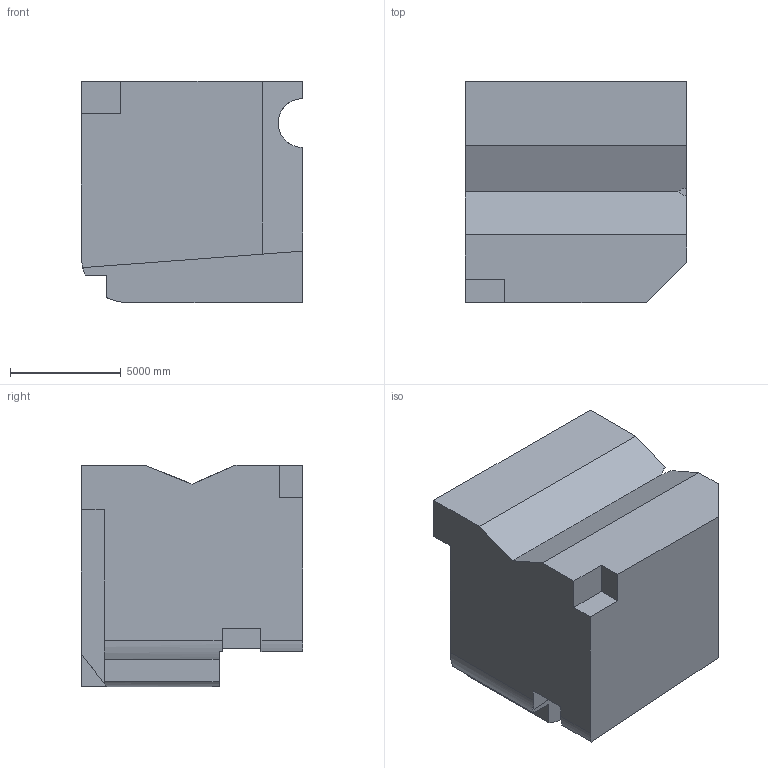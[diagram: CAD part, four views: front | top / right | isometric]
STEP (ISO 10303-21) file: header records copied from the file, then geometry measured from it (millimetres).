
FILE_DESCRIPTION (( 'STEP AP203' ), '1' );
FILE_NAME ('186.STEP', '2022-08-31T12:17:09', ( 'user' ), ( '' ), 'SwSTEP 2.0', 'SolidWorks 2021', '' );
FILE_SCHEMA (( 'CONFIG_CONTROL_DESIGN' ));
Length unit declared in the file: centimetre
Products named in the file (1): 186
Bounding box: 10000 x 10000 x 10000 mm (x, y, z)
Volume: 842886982435.7 mm3; surface area: 576419512.4 mm2
Topology: 1 solids, 1 shells, 32 faces, 90 edges, 60 vertices
Faces by surface type: plane 28, cylinder 4
Entity records: 1099 total; most frequent: CARTESIAN_POINT 195, ORIENTED_EDGE 180, DIRECTION 160, EDGE_CURVE 90, VECTOR 78, LINE 78, VERTEX_POINT 60, AXIS2_PLACEMENT_3D 41
